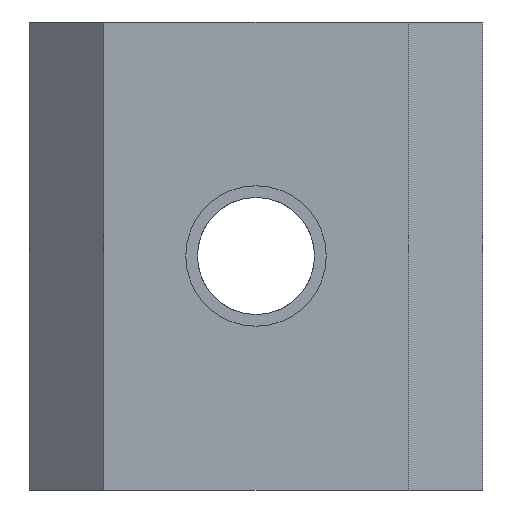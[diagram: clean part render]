
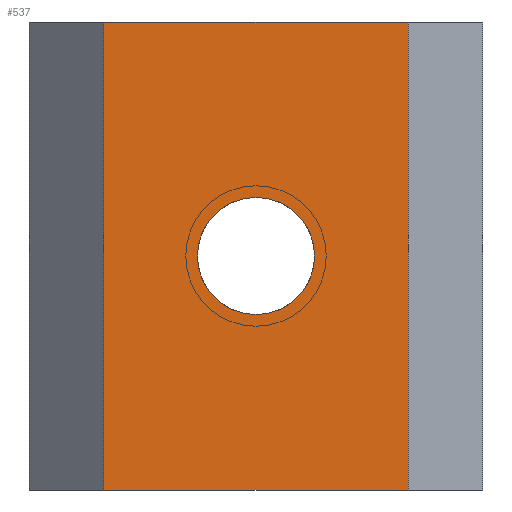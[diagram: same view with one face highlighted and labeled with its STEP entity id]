
A CAD part, front view. The second image highlights one B-rep face of the part: STEP entity #537.
In plain terms, the highlighted planar face has unit normal (0, -1, 0).
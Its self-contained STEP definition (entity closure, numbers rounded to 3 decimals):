
#25=DIRECTION('',(1.,0.,0.));
#26=VECTOR('',#25,13.);
#27=CARTESIAN_POINT('',(-6.5,-5.8,-10.));
#28=LINE('',#27,#26);
#159=DIRECTION('',(0.,0.,1.));
#160=VECTOR('',#159,20.);
#161=CARTESIAN_POINT('',(-6.5,-5.8,-10.));
#162=LINE('',#161,#160);
#163=CARTESIAN_POINT('',(0.,-5.8,0.));
#164=DIRECTION('',(0.,1.,0.));
#165=DIRECTION('',(1.,0.,0.));
#166=AXIS2_PLACEMENT_3D('',#163,#164,#165);
#168=CARTESIAN_POINT('',(0.,-5.8,0.));
#169=DIRECTION('',(0.,1.,0.));
#170=DIRECTION('',(-1.,0.,0.));
#171=AXIS2_PLACEMENT_3D('',#168,#169,#170);
#225=DIRECTION('',(1.,0.,0.));
#226=VECTOR('',#225,13.);
#227=CARTESIAN_POINT('',(-6.5,-5.8,10.));
#228=LINE('',#227,#226);
#261=DIRECTION('',(0.,0.,1.));
#262=VECTOR('',#261,20.);
#263=CARTESIAN_POINT('',(6.5,-5.8,-10.));
#264=LINE('',#263,#262);
#277=CARTESIAN_POINT('',(-6.5,-5.8,-10.));
#278=VERTEX_POINT('',#277);
#279=CARTESIAN_POINT('',(6.5,-5.8,-10.));
#280=VERTEX_POINT('',#279);
#303=CARTESIAN_POINT('',(-6.5,-5.8,10.));
#304=VERTEX_POINT('',#303);
#305=CARTESIAN_POINT('',(6.5,-5.8,10.));
#306=VERTEX_POINT('',#305);
#323=CARTESIAN_POINT('',(2.5,-5.8,0.));
#324=CARTESIAN_POINT('',(-2.5,-5.8,0.));
#325=VERTEX_POINT('',#323);
#326=VERTEX_POINT('',#324);
#519=CARTESIAN_POINT('',(-6.5,-5.8,-10.));
#520=DIRECTION('',(0.,-1.,0.));
#521=DIRECTION('',(1.,0.,0.));
#522=AXIS2_PLACEMENT_3D('',#519,#520,#521);
#523=PLANE('',#522);
#524=ORIENTED_EDGE('',*,*,#352,.F.);
#526=ORIENTED_EDGE('',*,*,#525,.T.);
#528=ORIENTED_EDGE('',*,*,#527,.T.);
#530=ORIENTED_EDGE('',*,*,#529,.F.);
#531=EDGE_LOOP('',(#524,#526,#528,#530));
#532=FACE_OUTER_BOUND('',#531,.F.);
#533=ORIENTED_EDGE('',*,*,#416,.F.);
#534=ORIENTED_EDGE('',*,*,#511,.F.);
#535=EDGE_LOOP('',(#533,#534));
#536=FACE_BOUND('',#535,.F.);
#537=ADVANCED_FACE('',(#532,#536),#523,.T.);
#167=CIRCLE('',#166,2.5);
#172=CIRCLE('',#171,2.5);
#352=EDGE_CURVE('',#278,#280,#28,.T.);
#416=EDGE_CURVE('',#325,#326,#167,.T.);
#511=EDGE_CURVE('',#326,#325,#172,.T.);
#525=EDGE_CURVE('',#278,#304,#162,.T.);
#527=EDGE_CURVE('',#304,#306,#228,.T.);
#529=EDGE_CURVE('',#280,#306,#264,.T.);
